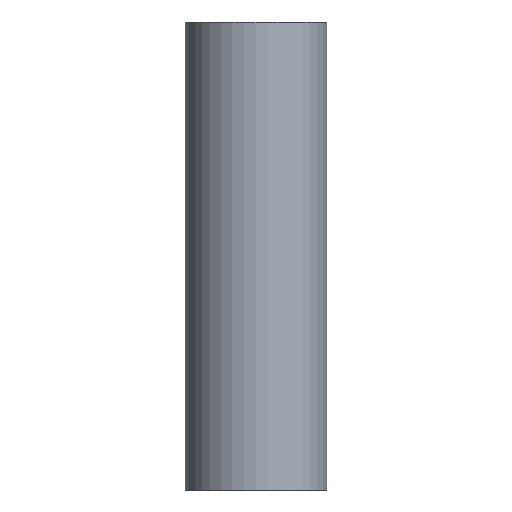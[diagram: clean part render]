
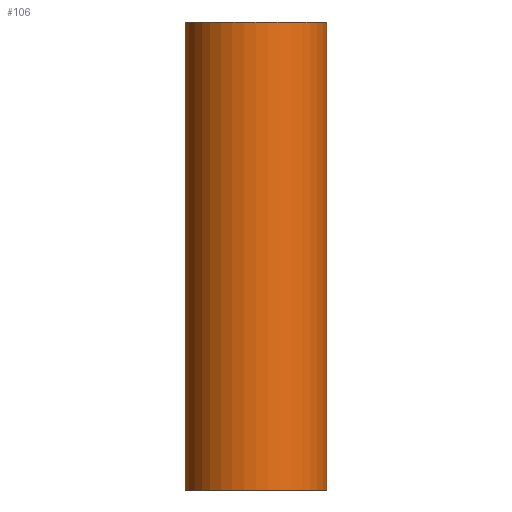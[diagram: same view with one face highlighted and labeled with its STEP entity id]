
A CAD part, left-side view. The second image highlights one B-rep face of the part: STEP entity #106.
In plain terms, the highlighted cylindrical face has radius 25 mm (diameter 50 mm), a full revolution.
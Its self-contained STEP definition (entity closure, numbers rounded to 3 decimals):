
#23=FACE_BOUND('',#47,.T.);
#24=FACE_BOUND('',#48,.T.);
#27=B_SPLINE_CURVE_WITH_KNOTS('',3,(#245,#246,#247,#248,#249,#250,#251,
#252,#253,#254,#255,#256,#257,#258,#259,#260,#261,#262,#263,#264,#265,#266,
#267,#268,#269,#270,#271,#272,#273,#274,#275,#276,#277,#278,#279,#280,#281,
#282,#283,#284,#285,#286,#287,#288,#289,#290,#291,#292,#293,#294,#295,#296,
#297,#298,#299,#300,#301,#302,#303,#304,#305,#306),.UNSPECIFIED.,.T.,.F.,
(4,2,2,2,2,2,2,2,2,2,2,2,2,2,2,2,2,2,2,2,2,2,2,2,2,2,2,2,2,2,4),(0.,0.632,
1.263,2.527,3.176,3.825,4.177,
4.529,4.874,5.219,5.848,6.477,
7.769,8.414,9.06,9.475,9.889,
10.304,10.719,11.104,11.49,11.875,
12.261,12.646,13.031,13.417,13.802,
14.217,14.632,15.046,15.461),
 .UNSPECIFIED.);
#33=FACE_OUTER_BOUND('',#46,.T.);
#46=EDGE_LOOP('',(#84));
#47=EDGE_LOOP('',(#85));
#48=EDGE_LOOP('',(#86));
#55=CIRCLE('',#137,25.);
#56=CIRCLE('',#139,25.);
#62=VERTEX_POINT('',#244);
#63=VERTEX_POINT('',#309);
#64=VERTEX_POINT('',#312);
#70=EDGE_CURVE('',#62,#62,#27,.T.);
#71=EDGE_CURVE('',#63,#63,#55,.T.);
#72=EDGE_CURVE('',#64,#64,#56,.T.);
#84=ORIENTED_EDGE('',*,*,#71,.T.);
#85=ORIENTED_EDGE('',*,*,#70,.T.);
#86=ORIENTED_EDGE('',*,*,#72,.F.);
#92=CYLINDRICAL_SURFACE('',#138,25.);
#106=ADVANCED_FACE('',(#33,#23,#24),#92,.T.);
#137=AXIS2_PLACEMENT_3D('',#310,#161,#162);
#138=AXIS2_PLACEMENT_3D('',#311,#163,#164);
#139=AXIS2_PLACEMENT_3D('',#313,#165,#166);
#161=DIRECTION('center_axis',(0.,0.,-1.));
#162=DIRECTION('ref_axis',(1.,0.,0.));
#163=DIRECTION('center_axis',(0.,0.,-1.));
#164=DIRECTION('ref_axis',(-1.,0.,0.));
#165=DIRECTION('center_axis',(0.,0.,-1.));
#166=DIRECTION('ref_axis',(1.,0.,0.));
#244=CARTESIAN_POINT('',(15.,-20.,70.));
#245=CARTESIAN_POINT('Ctrl Pts',(15.,-20.,70.));
#246=CARTESIAN_POINT('Ctrl Pts',(15.,-20.,72.106));
#247=CARTESIAN_POINT('Ctrl Pts',(15.219,-19.839,74.26));
#248=CARTESIAN_POINT('Ctrl Pts',(15.907,-19.291,78.6));
#249=CARTESIAN_POINT('Ctrl Pts',(16.377,-18.903,80.785));
#250=CARTESIAN_POINT('Ctrl Pts',(17.969,-17.441,87.256));
#251=CARTESIAN_POINT('Ctrl Pts',(19.264,-16.068,91.456));
#252=CARTESIAN_POINT('Ctrl Pts',(21.067,-13.503,97.007));
#253=CARTESIAN_POINT('Ctrl Pts',(21.742,-12.424,99.015));
#254=CARTESIAN_POINT('Ctrl Pts',(23.02,-9.855,102.729));
#255=CARTESIAN_POINT('Ctrl Pts',(23.622,-8.365,104.435));
#256=CARTESIAN_POINT('Ctrl Pts',(24.337,-5.795,106.442));
#257=CARTESIAN_POINT('Ctrl Pts',(24.578,-4.722,107.112));
#258=CARTESIAN_POINT('Ctrl Pts',(24.911,-2.413,108.037));
#259=CARTESIAN_POINT('Ctrl Pts',(25.,-1.174,108.284));
#260=CARTESIAN_POINT('Ctrl Pts',(25.,1.15,108.284));
#261=CARTESIAN_POINT('Ctrl Pts',(24.914,2.366,108.047));
#262=CARTESIAN_POINT('Ctrl Pts',(24.593,4.636,107.155));
#263=CARTESIAN_POINT('Ctrl Pts',(24.361,5.693,106.508));
#264=CARTESIAN_POINT('Ctrl Pts',(23.673,8.212,104.578));
#265=CARTESIAN_POINT('Ctrl Pts',(23.094,9.677,102.939));
#266=CARTESIAN_POINT('Ctrl Pts',(21.861,12.209,99.366));
#267=CARTESIAN_POINT('Ctrl Pts',(21.209,13.277,97.432));
#268=CARTESIAN_POINT('Ctrl Pts',(19.398,15.917,91.888));
#269=CARTESIAN_POINT('Ctrl Pts',(18.068,17.343,87.609));
#270=CARTESIAN_POINT('Ctrl Pts',(16.427,18.86,81.01));
#271=CARTESIAN_POINT('Ctrl Pts',(15.941,19.263,78.781));
#272=CARTESIAN_POINT('Ctrl Pts',(15.228,19.832,74.352));
#273=CARTESIAN_POINT('Ctrl Pts',(15.,20.,72.152));
#274=CARTESIAN_POINT('Ctrl Pts',(15.,20.,68.618));
#275=CARTESIAN_POINT('Ctrl Pts',(15.099,19.928,67.18));
#276=CARTESIAN_POINT('Ctrl Pts',(15.588,19.548,64.38));
#277=CARTESIAN_POINT('Ctrl Pts',(15.982,19.237,63.017));
#278=CARTESIAN_POINT('Ctrl Pts',(17.025,18.32,60.523));
#279=CARTESIAN_POINT('Ctrl Pts',(17.674,17.71,59.383));
#280=CARTESIAN_POINT('Ctrl Pts',(19.053,16.217,57.381));
#281=CARTESIAN_POINT('Ctrl Pts',(19.78,15.334,56.516));
#282=CARTESIAN_POINT('Ctrl Pts',(21.083,13.48,55.109));
#283=CARTESIAN_POINT('Ctrl Pts',(21.705,12.468,54.508));
#284=CARTESIAN_POINT('Ctrl Pts',(22.832,10.258,53.477));
#285=CARTESIAN_POINT('Ctrl Pts',(23.338,9.06,53.049));
#286=CARTESIAN_POINT('Ctrl Pts',(24.161,6.555,52.37));
#287=CARTESIAN_POINT('Ctrl Pts',(24.48,5.247,52.12));
#288=CARTESIAN_POINT('Ctrl Pts',(24.899,2.612,51.793));
#289=CARTESIAN_POINT('Ctrl Pts',(25.,1.285,51.716));
#290=CARTESIAN_POINT('Ctrl Pts',(25.,-1.285,51.716));
#291=CARTESIAN_POINT('Ctrl Pts',(24.899,-2.612,51.793));
#292=CARTESIAN_POINT('Ctrl Pts',(24.48,-5.247,52.12));
#293=CARTESIAN_POINT('Ctrl Pts',(24.161,-6.555,52.37));
#294=CARTESIAN_POINT('Ctrl Pts',(23.338,-9.06,53.049));
#295=CARTESIAN_POINT('Ctrl Pts',(22.832,-10.258,53.477));
#296=CARTESIAN_POINT('Ctrl Pts',(21.705,-12.468,54.508));
#297=CARTESIAN_POINT('Ctrl Pts',(21.083,-13.48,55.109));
#298=CARTESIAN_POINT('Ctrl Pts',(19.78,-15.334,56.516));
#299=CARTESIAN_POINT('Ctrl Pts',(19.053,-16.217,57.381));
#300=CARTESIAN_POINT('Ctrl Pts',(17.674,-17.71,59.383));
#301=CARTESIAN_POINT('Ctrl Pts',(17.025,-18.32,60.523));
#302=CARTESIAN_POINT('Ctrl Pts',(15.982,-19.237,63.017));
#303=CARTESIAN_POINT('Ctrl Pts',(15.588,-19.548,64.38));
#304=CARTESIAN_POINT('Ctrl Pts',(15.099,-19.928,67.18));
#305=CARTESIAN_POINT('Ctrl Pts',(15.,-20.,68.618));
#306=CARTESIAN_POINT('Ctrl Pts',(15.,-20.,70.));
#309=CARTESIAN_POINT('',(-25.,0.,165.));
#310=CARTESIAN_POINT('Origin',(0.,0.,165.));
#311=CARTESIAN_POINT('Origin',(0.,0.,82.5));
#312=CARTESIAN_POINT('',(-25.,0.,0.));
#313=CARTESIAN_POINT('Origin',(0.,0.,0.));
